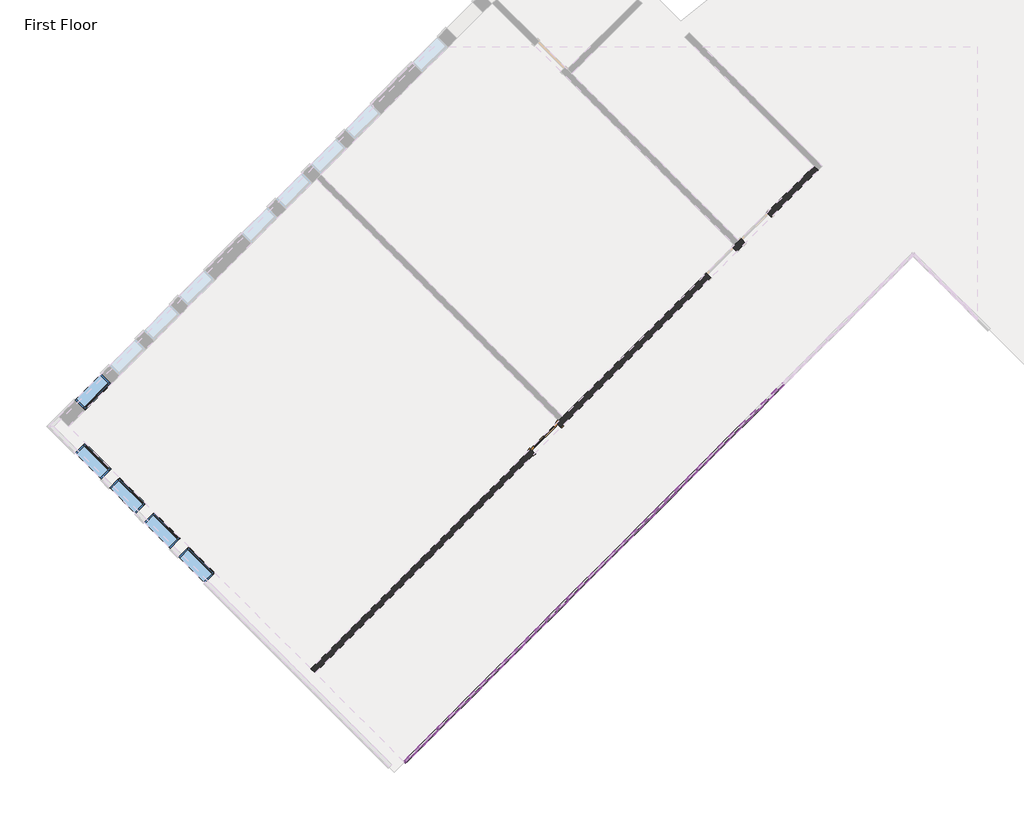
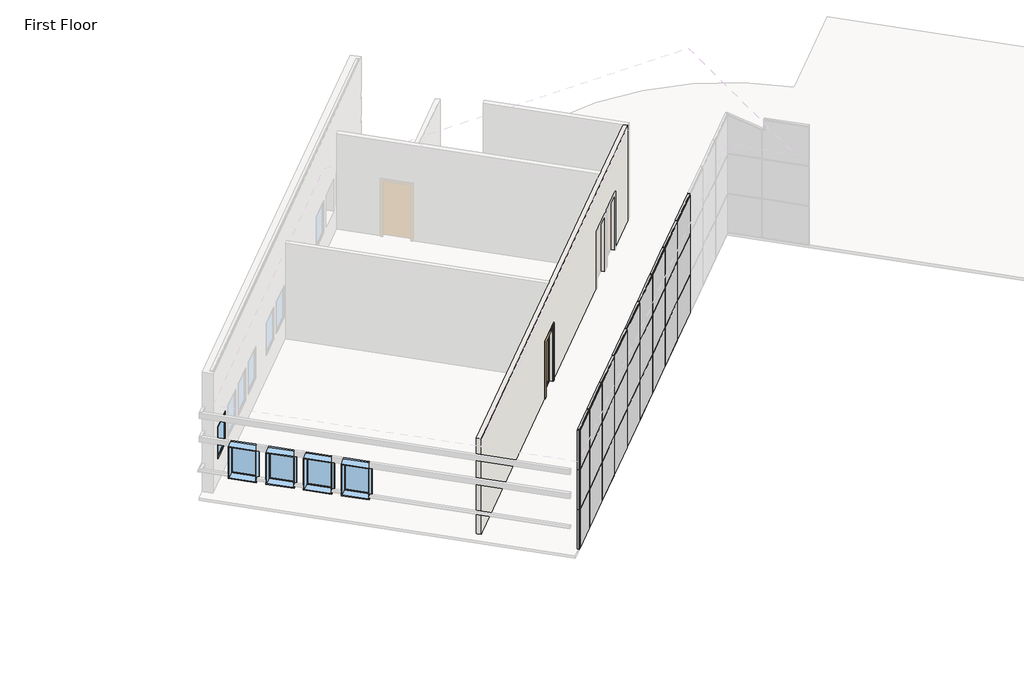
# One storey, part 1 of 5: 65 members, 27 plates, 5 windows, 1 door, 1 wall.
"""IFC4 building model written with IfcOpenShell, lengths in millimetres."""

from ifc_helpers import new_model, si_unit, origin, place, context, project, spatial, faceted_brep, transform, mapped, element, save
from components import door_b81abb0e, member_6121af53, member_155beb68, member_bd80eb51, member_42be4715, member_a3731390, member_b87a50da, system_panel_glazed_da345f4e, system_panel_glazed_f1e4c5b0, system_panel_glazed_b4114ee2, system_panel_glazed_dc791129, system_panel_solid_2f1037e2, system_panel_solid_6e0f4c8d, window_15c49d37, window_0e2fc6ce

model = new_model("IFC4")

# Units and contexts
model_context = context("Model", 3, world=origin())
ifc_project = project(units=[si_unit("LENGTHUNIT", "METRE", prefix="MILLI")], contexts=[model_context])

# Site, building, storey
site = spatial("IfcSite", under=ifc_project)
building = spatial("IfcBuilding", under=site)
storey = spatial("IfcBuildingStorey", under=building, Name="First Floor", Elevation=0.0)

# Door
placement = place(None, origin())
door_shape = door_b81abb0e(model_context)
element("IfcDoor", 1, ObjectType="Single-Glass 1 : 36\" x 84\"", at=placement, inside=storey, context=model_context, shape_type="MappedRepresentation", body=[
    mapped(door_shape, transform((-12027.7718255, -1647.4849877, 0.0), x_axis=(0.7071067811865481, 0.7071067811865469, 0.0), y_axis=(-0.7071067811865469, 0.7071067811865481, 0.0), z_axis=(0.0, 0.0, 1.0))),
])

# Members
member_shape = member_6121af53(model_context)
element("IfcMember", 2, ObjectType="Rectangular Mullion : 1.5\" x 2.5\" Rectangular", at=placement, inside=storey, context=model_context, shape_type="MappedRepresentation", body=[
    mapped(member_shape, transform((-10397.9731218, -4577.4113295, 4572.0), x_axis=(0.0, 0.0, 1.0), y_axis=(-0.7071067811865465, 0.7071067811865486, 0.0), z_axis=(-0.7071067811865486, -0.7071067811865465, 0.0))),
])
element("IfcMember", 3, ObjectType="Rectangular Mullion : 1.5\" x 2.5\" Rectangular", at=placement, inside=storey, context=model_context, shape_type="MappedRepresentation", body=[
    mapped(member_shape, transform((-11475.6038564, -5655.042064, 4572.0), x_axis=(0.0, 0.0, 1.0), y_axis=(-0.7071067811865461, 0.707106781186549, 0.0), z_axis=(-0.7071067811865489, -0.707106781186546, 0.0))),
])
element("IfcMember", 4, ObjectType="Rectangular Mullion : 1.5\" x 2.5\" Rectangular", at=placement, inside=storey, context=model_context, shape_type="MappedRepresentation", body=[
    mapped(member_shape, transform((-12553.2345909, -6732.6727986, 4572.0), x_axis=(0.0, 0.0, 1.0), y_axis=(-0.7071067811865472, 0.7071067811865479, 0.0), z_axis=(-0.7071067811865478, -0.7071067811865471, 0.0))),
])
element("IfcMember", 5, ObjectType="Rectangular Mullion : 1.5\" x 2.5\" Rectangular", at=placement, inside=storey, context=model_context, shape_type="MappedRepresentation", body=[
    mapped(member_shape, transform((-13630.8653254, -7810.3035331, 4572.0), x_axis=(0.0, 0.0, 1.0), y_axis=(-0.7071067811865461, 0.707106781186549, 0.0), z_axis=(-0.707106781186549, -0.7071067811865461, 0.0))),
])
element("IfcMember", 6, ObjectType="Rectangular Mullion : 1.5\" x 2.5\" Rectangular", at=placement, inside=storey, context=model_context, shape_type="MappedRepresentation", body=[
    mapped(member_shape, transform((-14708.4960599, -8887.9342676, 4572.0), x_axis=(0.0, 0.0, 1.0), y_axis=(-0.7071067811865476, 0.7071067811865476, 0.0), z_axis=(-0.7071067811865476, -0.7071067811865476, 0.0))),
])
element("IfcMember", 7, ObjectType="Rectangular Mullion : 1.5\" x 2.5\" Rectangular", at=placement, inside=storey, context=model_context, shape_type="MappedRepresentation", body=[
    mapped(member_shape, transform((-7165.0809182, -1344.5191259, 4572.0), x_axis=(0.0, 0.0, 1.0), y_axis=(-0.7071067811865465, 0.7071067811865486, 0.0), z_axis=(-0.7071067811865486, -0.7071067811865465, 0.0))),
])
element("IfcMember", 8, ObjectType="Rectangular Mullion : 1.5\" x 2.5\" Rectangular", at=placement, inside=storey, context=model_context, shape_type="MappedRepresentation", body=[
    mapped(member_shape, transform((-8242.7116528, -2422.1498604, 4572.0), x_axis=(0.0, 0.0, 1.0), y_axis=(-0.7071067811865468, 0.7071067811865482, 0.0), z_axis=(-0.7071067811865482, -0.7071067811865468, 0.0))),
])
element("IfcMember", 9, ObjectType="Rectangular Mullion : 1.5\" x 2.5\" Rectangular", at=placement, inside=storey, context=model_context, shape_type="MappedRepresentation", body=[
    mapped(member_shape, transform((-9320.3423873, -3499.780595, 4572.0), x_axis=(0.0, 0.0, 1.0), y_axis=(-0.7071067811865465, 0.7071067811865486, 0.0), z_axis=(-0.7071067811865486, -0.7071067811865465, 0.0))),
])
member_2_shape = member_155beb68(model_context)
element("IfcMember", 10, ObjectType="Rectangular Mullion : 1.5\" x 2.5\" Rectangular", at=placement, inside=storey, context=model_context, shape_type="MappedRepresentation", body=[
    mapped(member_2_shape, transform((-6100.9205679, -280.3587756, 1524.0), x_axis=(-0.7071067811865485, -0.7071067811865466, 0.0), y_axis=(-0.7071067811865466, 0.7071067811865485, 0.0), z_axis=(0.0, 0.0, -1.0))),
])
element("IfcMember", 11, ObjectType="Rectangular Mullion : 1.5\" x 2.5\" Rectangular", at=placement, inside=storey, context=model_context, shape_type="MappedRepresentation", body=[
    mapped(member_2_shape, transform((-7178.5513024, -1357.9895101, 1524.0), x_axis=(-0.7071067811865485, -0.7071067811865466, 0.0), y_axis=(-0.7071067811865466, 0.7071067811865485, 0.0), z_axis=(0.0, 0.0, -1.0))),
])
element("IfcMember", 12, ObjectType="Rectangular Mullion : 1.5\" x 2.5\" Rectangular", at=placement, inside=storey, context=model_context, shape_type="MappedRepresentation", body=[
    mapped(member_2_shape, transform((-8256.1820369, -2435.6202446, 1524.0), x_axis=(-0.7071067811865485, -0.7071067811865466, 0.0), y_axis=(-0.7071067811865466, 0.7071067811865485, 0.0), z_axis=(0.0, 0.0, -1.0))),
])
element("IfcMember", 13, ObjectType="Rectangular Mullion : 1.5\" x 2.5\" Rectangular", at=placement, inside=storey, context=model_context, shape_type="MappedRepresentation", body=[
    mapped(member_2_shape, transform((-9333.8127715, -3513.2509792, 1524.0), x_axis=(-0.7071067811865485, -0.7071067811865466, 0.0), y_axis=(-0.7071067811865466, 0.7071067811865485, 0.0), z_axis=(0.0, 0.0, -1.0))),
])
element("IfcMember", 14, ObjectType="Rectangular Mullion : 1.5\" x 2.5\" Rectangular", at=placement, inside=storey, context=model_context, shape_type="MappedRepresentation", body=[
    mapped(member_2_shape, transform((-10411.443506, -4590.8817137, 1524.0), x_axis=(-0.7071067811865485, -0.7071067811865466, 0.0), y_axis=(-0.7071067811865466, 0.7071067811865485, 0.0), z_axis=(0.0, 0.0, -1.0))),
])
element("IfcMember", 15, ObjectType="Rectangular Mullion : 1.5\" x 2.5\" Rectangular", at=placement, inside=storey, context=model_context, shape_type="MappedRepresentation", body=[
    mapped(member_2_shape, transform((-11489.0742405, -5668.5124482, 1524.0), x_axis=(-0.7071067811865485, -0.7071067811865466, 0.0), y_axis=(-0.7071067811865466, 0.7071067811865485, 0.0), z_axis=(0.0, 0.0, -1.0))),
])
element("IfcMember", 16, ObjectType="Rectangular Mullion : 1.5\" x 2.5\" Rectangular", at=placement, inside=storey, context=model_context, shape_type="MappedRepresentation", body=[
    mapped(member_2_shape, transform((-12566.7049751, -6746.1431827, 1524.0), x_axis=(-0.7071067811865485, -0.7071067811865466, 0.0), y_axis=(-0.7071067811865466, 0.7071067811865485, 0.0), z_axis=(0.0, 0.0, -1.0))),
])
element("IfcMember", 17, ObjectType="Rectangular Mullion : 1.5\" x 2.5\" Rectangular", at=placement, inside=storey, context=model_context, shape_type="MappedRepresentation", body=[
    mapped(member_2_shape, transform((-13644.3357096, -7823.7739173, 1524.0), x_axis=(-0.7071067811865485, -0.7071067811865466, 0.0), y_axis=(-0.7071067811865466, 0.7071067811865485, 0.0), z_axis=(0.0, 0.0, -1.0))),
])
element("IfcMember", 18, ObjectType="Rectangular Mullion : 1.5\" x 2.5\" Rectangular", at=placement, inside=storey, context=model_context, shape_type="MappedRepresentation", body=[
    mapped(member_2_shape, transform((-14721.9664441, -8901.4046518, 1524.0), x_axis=(-0.7071067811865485, -0.7071067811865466, 0.0), y_axis=(-0.7071067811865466, 0.7071067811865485, 0.0), z_axis=(0.0, 0.0, -1.0))),
])
element("IfcMember", 19, ObjectType="Rectangular Mullion : 1.5\" x 2.5\" Rectangular", at=placement, inside=storey, context=model_context, shape_type="MappedRepresentation", body=[
    mapped(member_2_shape, transform((-6100.9205679, -280.3587756, 3048.0), x_axis=(-0.7071067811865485, -0.7071067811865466, 0.0), y_axis=(-0.7071067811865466, 0.7071067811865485, 0.0), z_axis=(0.0, 0.0, -1.0))),
])
element("IfcMember", 20, ObjectType="Rectangular Mullion : 1.5\" x 2.5\" Rectangular", at=placement, inside=storey, context=model_context, shape_type="MappedRepresentation", body=[
    mapped(member_2_shape, transform((-7178.5513024, -1357.9895101, 3048.0), x_axis=(-0.7071067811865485, -0.7071067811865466, 0.0), y_axis=(-0.7071067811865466, 0.7071067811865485, 0.0), z_axis=(0.0, 0.0, -1.0))),
])
element("IfcMember", 21, ObjectType="Rectangular Mullion : 1.5\" x 2.5\" Rectangular", at=placement, inside=storey, context=model_context, shape_type="MappedRepresentation", body=[
    mapped(member_2_shape, transform((-8256.1820369, -2435.6202446, 3048.0), x_axis=(-0.7071067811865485, -0.7071067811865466, 0.0), y_axis=(-0.7071067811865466, 0.7071067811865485, 0.0), z_axis=(0.0, 0.0, -1.0))),
])
element("IfcMember", 22, ObjectType="Rectangular Mullion : 1.5\" x 2.5\" Rectangular", at=placement, inside=storey, context=model_context, shape_type="MappedRepresentation", body=[
    mapped(member_2_shape, transform((-9333.8127715, -3513.2509792, 3048.0), x_axis=(-0.7071067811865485, -0.7071067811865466, 0.0), y_axis=(-0.7071067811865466, 0.7071067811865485, 0.0), z_axis=(0.0, 0.0, -1.0))),
])
element("IfcMember", 23, ObjectType="Rectangular Mullion : 1.5\" x 2.5\" Rectangular", at=placement, inside=storey, context=model_context, shape_type="MappedRepresentation", body=[
    mapped(member_2_shape, transform((-10411.443506, -4590.8817137, 3048.0), x_axis=(-0.7071067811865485, -0.7071067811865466, 0.0), y_axis=(-0.7071067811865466, 0.7071067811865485, 0.0), z_axis=(0.0, 0.0, -1.0))),
])
element("IfcMember", 24, ObjectType="Rectangular Mullion : 1.5\" x 2.5\" Rectangular", at=placement, inside=storey, context=model_context, shape_type="MappedRepresentation", body=[
    mapped(member_2_shape, transform((-11489.0742405, -5668.5124482, 3048.0), x_axis=(-0.7071067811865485, -0.7071067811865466, 0.0), y_axis=(-0.7071067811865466, 0.7071067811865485, 0.0), z_axis=(0.0, 0.0, -1.0))),
])
element("IfcMember", 25, ObjectType="Rectangular Mullion : 1.5\" x 2.5\" Rectangular", at=placement, inside=storey, context=model_context, shape_type="MappedRepresentation", body=[
    mapped(member_2_shape, transform((-12566.7049751, -6746.1431827, 3048.0), x_axis=(-0.7071067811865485, -0.7071067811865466, 0.0), y_axis=(-0.7071067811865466, 0.7071067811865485, 0.0), z_axis=(0.0, 0.0, -1.0))),
])
element("IfcMember", 26, ObjectType="Rectangular Mullion : 1.5\" x 2.5\" Rectangular", at=placement, inside=storey, context=model_context, shape_type="MappedRepresentation", body=[
    mapped(member_2_shape, transform((-13644.3357096, -7823.7739173, 3048.0), x_axis=(-0.7071067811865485, -0.7071067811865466, 0.0), y_axis=(-0.7071067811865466, 0.7071067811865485, 0.0), z_axis=(0.0, 0.0, -1.0))),
])
element("IfcMember", 27, ObjectType="Rectangular Mullion : 1.5\" x 2.5\" Rectangular", at=placement, inside=storey, context=model_context, shape_type="MappedRepresentation", body=[
    mapped(member_2_shape, transform((-14721.9664441, -8901.4046518, 3048.0), x_axis=(-0.7071067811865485, -0.7071067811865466, 0.0), y_axis=(-0.7071067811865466, 0.7071067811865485, 0.0), z_axis=(0.0, 0.0, -1.0))),
])
member_3_shape = member_bd80eb51(model_context)
element("IfcMember", 28, ObjectType="Rectangular Mullion : 1.5\" x 2.5\" Rectangular", at=placement, inside=storey, context=model_context, shape_type="MappedRepresentation", body=[
    mapped(member_3_shape, transform((-15523.4543029, -9702.8925106, 4572.0), x_axis=(0.0, 0.0, 1.0), y_axis=(-0.7071067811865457, 0.7071067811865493, 0.0), z_axis=(-0.7071067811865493, -0.7071067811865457, 0.0))),
])
element("IfcMember", 29, ObjectType="Rectangular Mullion : 1.5\" x 2.5\" Rectangular", at=placement, inside=storey, context=model_context, shape_type="MappedRepresentation", body=[
    mapped(member_2_shape, transform((-13644.3357096, -7823.7739173, 0.0), x_axis=(-0.7071067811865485, -0.7071067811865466, 0.0), y_axis=(-0.7071067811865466, 0.7071067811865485, 0.0), z_axis=(0.0, 0.0, -1.0))),
])
element("IfcMember", 30, ObjectType="Rectangular Mullion : 1.5\" x 2.5\" Rectangular", at=placement, inside=storey, context=model_context, shape_type="MappedRepresentation", body=[
    mapped(member_2_shape, transform((-14721.9664441, -8901.4046518, 0.0), x_axis=(-0.7071067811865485, -0.7071067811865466, 0.0), y_axis=(-0.7071067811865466, 0.7071067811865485, 0.0), z_axis=(0.0, 0.0, -1.0))),
])
element("IfcMember", 31, ObjectType="Rectangular Mullion : 1.5\" x 2.5\" Rectangular", at=placement, inside=storey, context=model_context, shape_type="MappedRepresentation", body=[
    mapped(member_2_shape, transform((-7178.5513024, -1357.9895101, 0.0), x_axis=(-0.7071067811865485, -0.7071067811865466, 0.0), y_axis=(-0.7071067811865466, 0.7071067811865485, 0.0), z_axis=(0.0, 0.0, -1.0))),
])
element("IfcMember", 32, ObjectType="Rectangular Mullion : 1.5\" x 2.5\" Rectangular", at=placement, inside=storey, context=model_context, shape_type="MappedRepresentation", body=[
    mapped(member_2_shape, transform((-8256.1820369, -2435.6202446, 0.0), x_axis=(-0.7071067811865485, -0.7071067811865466, 0.0), y_axis=(-0.7071067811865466, 0.7071067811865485, 0.0), z_axis=(0.0, 0.0, -1.0))),
])
element("IfcMember", 33, ObjectType="Rectangular Mullion : 1.5\" x 2.5\" Rectangular", at=placement, inside=storey, context=model_context, shape_type="MappedRepresentation", body=[
    mapped(member_2_shape, transform((-9333.8127715, -3513.2509792, 0.0), x_axis=(-0.7071067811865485, -0.7071067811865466, 0.0), y_axis=(-0.7071067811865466, 0.7071067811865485, 0.0), z_axis=(0.0, 0.0, -1.0))),
])
element("IfcMember", 34, ObjectType="Rectangular Mullion : 1.5\" x 2.5\" Rectangular", at=placement, inside=storey, context=model_context, shape_type="MappedRepresentation", body=[
    mapped(member_2_shape, transform((-10411.443506, -4590.8817137, 0.0), x_axis=(-0.7071067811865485, -0.7071067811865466, 0.0), y_axis=(-0.7071067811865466, 0.7071067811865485, 0.0), z_axis=(0.0, 0.0, -1.0))),
])
element("IfcMember", 35, ObjectType="Rectangular Mullion : 1.5\" x 2.5\" Rectangular", at=placement, inside=storey, context=model_context, shape_type="MappedRepresentation", body=[
    mapped(member_2_shape, transform((-11489.0742405, -5668.5124482, 0.0), x_axis=(-0.7071067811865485, -0.7071067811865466, 0.0), y_axis=(-0.7071067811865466, 0.7071067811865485, 0.0), z_axis=(0.0, 0.0, -1.0))),
])
element("IfcMember", 36, ObjectType="Rectangular Mullion : 1.5\" x 2.5\" Rectangular", at=placement, inside=storey, context=model_context, shape_type="MappedRepresentation", body=[
    mapped(member_2_shape, transform((-12566.7049751, -6746.1431827, 0.0), x_axis=(-0.7071067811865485, -0.7071067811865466, 0.0), y_axis=(-0.7071067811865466, 0.7071067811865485, 0.0), z_axis=(0.0, 0.0, -1.0))),
])
member_4_shape = member_42be4715(model_context)
element("IfcMember", 37, ObjectType="Rectangular Mullion : 1.5\" x 2.5\" Rectangular", at=placement, inside=storey, context=model_context, shape_type="MappedRepresentation", body=[
    mapped(member_4_shape, transform((-6087.4501837, -266.8883914, 3048.0), x_axis=(0.0, 0.0, 1.0), y_axis=(-0.7071067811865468, 0.7071067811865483, 0.0), z_axis=(-0.7071067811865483, -0.7071067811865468, 0.0))),
])
element("IfcMember", 38, ObjectType="Rectangular Mullion : 1.5\" x 2.5\" Rectangular", at=placement, inside=storey, context=model_context, shape_type="MappedRepresentation", body=[
    mapped(member_4_shape, transform((-7165.0809182, -1344.5191259, 3048.0), x_axis=(0.0, 0.0, 1.0), y_axis=(-0.7071067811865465, 0.7071067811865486, 0.0), z_axis=(-0.7071067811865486, -0.7071067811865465, 0.0))),
])
element("IfcMember", 39, ObjectType="Rectangular Mullion : 1.5\" x 2.5\" Rectangular", at=placement, inside=storey, context=model_context, shape_type="MappedRepresentation", body=[
    mapped(member_4_shape, transform((-8242.7116528, -2422.1498604, 3048.0), x_axis=(0.0, 0.0, 1.0), y_axis=(-0.7071067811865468, 0.7071067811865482, 0.0), z_axis=(-0.7071067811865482, -0.7071067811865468, 0.0))),
])
element("IfcMember", 40, ObjectType="Rectangular Mullion : 1.5\" x 2.5\" Rectangular", at=placement, inside=storey, context=model_context, shape_type="MappedRepresentation", body=[
    mapped(member_4_shape, transform((-9320.3423873, -3499.780595, 3048.0), x_axis=(0.0, 0.0, 1.0), y_axis=(-0.7071067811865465, 0.7071067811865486, 0.0), z_axis=(-0.7071067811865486, -0.7071067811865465, 0.0))),
])
element("IfcMember", 41, ObjectType="Rectangular Mullion : 1.5\" x 2.5\" Rectangular", at=placement, inside=storey, context=model_context, shape_type="MappedRepresentation", body=[
    mapped(member_4_shape, transform((-10397.9731218, -4577.4113295, 3048.0), x_axis=(0.0, 0.0, 1.0), y_axis=(-0.7071067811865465, 0.7071067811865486, 0.0), z_axis=(-0.7071067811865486, -0.7071067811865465, 0.0))),
])
element("IfcMember", 42, ObjectType="Rectangular Mullion : 1.5\" x 2.5\" Rectangular", at=placement, inside=storey, context=model_context, shape_type="MappedRepresentation", body=[
    mapped(member_4_shape, transform((-11475.6038564, -5655.042064, 3048.0), x_axis=(0.0, 0.0, 1.0), y_axis=(-0.7071067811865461, 0.707106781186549, 0.0), z_axis=(-0.7071067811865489, -0.707106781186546, 0.0))),
])
element("IfcMember", 43, ObjectType="Rectangular Mullion : 1.5\" x 2.5\" Rectangular", at=placement, inside=storey, context=model_context, shape_type="MappedRepresentation", body=[
    mapped(member_4_shape, transform((-12553.2345909, -6732.6727986, 3048.0), x_axis=(0.0, 0.0, 1.0), y_axis=(-0.7071067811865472, 0.7071067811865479, 0.0), z_axis=(-0.7071067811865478, -0.7071067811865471, 0.0))),
])
element("IfcMember", 44, ObjectType="Rectangular Mullion : 1.5\" x 2.5\" Rectangular", at=placement, inside=storey, context=model_context, shape_type="MappedRepresentation", body=[
    mapped(member_4_shape, transform((-7165.0809182, -1344.5191259, 1524.0), x_axis=(0.0, 0.0, 1.0), y_axis=(-0.7071067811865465, 0.7071067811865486, 0.0), z_axis=(-0.7071067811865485, -0.7071067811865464, 0.0))),
])
element("IfcMember", 45, ObjectType="Rectangular Mullion : 1.5\" x 2.5\" Rectangular", at=placement, inside=storey, context=model_context, shape_type="MappedRepresentation", body=[
    mapped(member_4_shape, transform((-8242.7116528, -2422.1498604, 1524.0), x_axis=(0.0, 0.0, 1.0), y_axis=(-0.7071067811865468, 0.7071067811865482, 0.0), z_axis=(-0.7071067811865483, -0.7071067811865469, 0.0))),
])
element("IfcMember", 46, ObjectType="Rectangular Mullion : 1.5\" x 2.5\" Rectangular", at=placement, inside=storey, context=model_context, shape_type="MappedRepresentation", body=[
    mapped(member_4_shape, transform((-9320.3423873, -3499.780595, 1524.0), x_axis=(0.0, 0.0, 1.0), y_axis=(-0.7071067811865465, 0.7071067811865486, 0.0), z_axis=(-0.7071067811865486, -0.7071067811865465, 0.0))),
])
element("IfcMember", 47, ObjectType="Rectangular Mullion : 1.5\" x 2.5\" Rectangular", at=placement, inside=storey, context=model_context, shape_type="MappedRepresentation", body=[
    mapped(member_4_shape, transform((-10397.9731218, -4577.4113295, 1524.0), x_axis=(0.0, 0.0, 1.0), y_axis=(-0.7071067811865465, 0.7071067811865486, 0.0), z_axis=(-0.7071067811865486, -0.7071067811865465, 0.0))),
])
element("IfcMember", 48, ObjectType="Rectangular Mullion : 1.5\" x 2.5\" Rectangular", at=placement, inside=storey, context=model_context, shape_type="MappedRepresentation", body=[
    mapped(member_4_shape, transform((-11475.6038564, -5655.042064, 1524.0), x_axis=(0.0, 0.0, 1.0), y_axis=(-0.7071067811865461, 0.707106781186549, 0.0), z_axis=(-0.7071067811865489, -0.707106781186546, 0.0))),
])
element("IfcMember", 49, ObjectType="Rectangular Mullion : 1.5\" x 2.5\" Rectangular", at=placement, inside=storey, context=model_context, shape_type="MappedRepresentation", body=[
    mapped(member_4_shape, transform((-12553.2345909, -6732.6727986, 1524.0), x_axis=(0.0, 0.0, 1.0), y_axis=(-0.7071067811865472, 0.7071067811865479, 0.0), z_axis=(-0.7071067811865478, -0.7071067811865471, 0.0))),
])
element("IfcMember", 50, ObjectType="Rectangular Mullion : 1.5\" x 2.5\" Rectangular", at=placement, inside=storey, context=model_context, shape_type="MappedRepresentation", body=[
    mapped(member_4_shape, transform((-13630.8653254, -7810.3035331, 1524.0), x_axis=(0.0, 0.0, 1.0), y_axis=(-0.7071067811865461, 0.707106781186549, 0.0), z_axis=(-0.707106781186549, -0.7071067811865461, 0.0))),
])
element("IfcMember", 51, ObjectType="Rectangular Mullion : 1.5\" x 2.5\" Rectangular", at=placement, inside=storey, context=model_context, shape_type="MappedRepresentation", body=[
    mapped(member_4_shape, transform((-14708.4960599, -8887.9342676, 1524.0), x_axis=(0.0, 0.0, 1.0), y_axis=(-0.7071067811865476, 0.7071067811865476, 0.0), z_axis=(-0.7071067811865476, -0.7071067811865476, 0.0))),
])
element("IfcMember", 52, ObjectType="Rectangular Mullion : 1.5\" x 2.5\" Rectangular", at=placement, inside=storey, context=model_context, shape_type="MappedRepresentation", body=[
    mapped(member_4_shape, transform((-13630.8653254, -7810.3035331, 3048.0), x_axis=(0.0, 0.0, 1.0), y_axis=(-0.7071067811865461, 0.707106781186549, 0.0), z_axis=(-0.707106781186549, -0.7071067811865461, 0.0))),
])
element("IfcMember", 53, ObjectType="Rectangular Mullion : 1.5\" x 2.5\" Rectangular", at=placement, inside=storey, context=model_context, shape_type="MappedRepresentation", body=[
    mapped(member_4_shape, transform((-14708.4960599, -8887.9342676, 3048.0), x_axis=(0.0, 0.0, 1.0), y_axis=(-0.7071067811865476, 0.7071067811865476, 0.0), z_axis=(-0.7071067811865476, -0.7071067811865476, 0.0))),
])
element("IfcMember", 54, ObjectType="Rectangular Mullion : 1.5\" x 2.5\" Rectangular", at=placement, inside=storey, context=model_context, shape_type="MappedRepresentation", body=[
    mapped(member_shape, transform((-12580.1753592, -6759.6135669, 0.0), x_axis=(0.0, 0.0, -1.0), y_axis=(-0.7071067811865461, 0.707106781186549, 0.0), z_axis=(0.707106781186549, 0.7071067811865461, 0.0))),
])
element("IfcMember", 55, ObjectType="Rectangular Mullion : 1.5\" x 2.5\" Rectangular", at=placement, inside=storey, context=model_context, shape_type="MappedRepresentation", body=[
    mapped(member_shape, transform((-13657.8060938, -7837.2443014, 0.0), x_axis=(0.0, 0.0, -1.0), y_axis=(-0.7071067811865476, 0.7071067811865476, 0.0), z_axis=(0.7071067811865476, 0.7071067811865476, 0.0))),
])
element("IfcMember", 56, ObjectType="Rectangular Mullion : 1.5\" x 2.5\" Rectangular", at=placement, inside=storey, context=model_context, shape_type="MappedRepresentation", body=[
    mapped(member_shape, transform((-7192.0216866, -1371.4598943, 0.0), x_axis=(0.0, 0.0, -1.0), y_axis=(-0.7071067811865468, 0.7071067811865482, 0.0), z_axis=(0.7071067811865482, 0.7071067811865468, 0.0))),
])
element("IfcMember", 57, ObjectType="Rectangular Mullion : 1.5\" x 2.5\" Rectangular", at=placement, inside=storey, context=model_context, shape_type="MappedRepresentation", body=[
    mapped(member_shape, transform((-8269.6524211, -2449.0906288, 0.0), x_axis=(0.0, 0.0, -1.0), y_axis=(-0.7071067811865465, 0.7071067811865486, 0.0), z_axis=(0.7071067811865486, 0.7071067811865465, 0.0))),
])
element("IfcMember", 58, ObjectType="Rectangular Mullion : 1.5\" x 2.5\" Rectangular", at=placement, inside=storey, context=model_context, shape_type="MappedRepresentation", body=[
    mapped(member_shape, transform((-9347.2831557, -3526.7213633, 0.0), x_axis=(0.0, 0.0, -1.0), y_axis=(-0.7071067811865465, 0.7071067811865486, 0.0), z_axis=(0.7071067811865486, 0.7071067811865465, 0.0))),
])
element("IfcMember", 59, ObjectType="Rectangular Mullion : 1.5\" x 2.5\" Rectangular", at=placement, inside=storey, context=model_context, shape_type="MappedRepresentation", body=[
    mapped(member_shape, transform((-10424.9138902, -4604.3520979, 0.0), x_axis=(0.0, 0.0, -1.0), y_axis=(-0.7071067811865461, 0.707106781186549, 0.0), z_axis=(0.7071067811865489, 0.707106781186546, 0.0))),
])
element("IfcMember", 60, ObjectType="Rectangular Mullion : 1.5\" x 2.5\" Rectangular", at=placement, inside=storey, context=model_context, shape_type="MappedRepresentation", body=[
    mapped(member_shape, transform((-11502.5446247, -5681.9828324, 0.0), x_axis=(0.0, 0.0, -1.0), y_axis=(-0.7071067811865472, 0.7071067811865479, 0.0), z_axis=(0.7071067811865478, 0.7071067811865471, 0.0))),
])
element("IfcMember", 61, ObjectType="Rectangular Mullion : 1.5\" x 2.5\" Rectangular", at=placement, inside=storey, context=model_context, shape_type="MappedRepresentation", body=[
    mapped(member_3_shape, transform((-14735.4368283, -8914.875036, 0.0), x_axis=(0.0, 0.0, -1.0), y_axis=(-0.7071067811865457, 0.7071067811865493, 0.0), z_axis=(0.7071067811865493, 0.7071067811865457, 0.0))),
])
member_5_shape = member_a3731390(model_context)
element("IfcMember", 62, ObjectType="Rectangular Mullion : 1.5\" x 2.5\" Rectangular", at=placement, inside=storey, context=model_context, shape_type="MappedRepresentation", body=[
    mapped(member_5_shape, transform((-15523.4543029, -9702.8925106, 1524.0), x_axis=(0.0, 0.0, 1.0), y_axis=(-0.7071067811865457, 0.7071067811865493, 0.0), z_axis=(-0.7071067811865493, -0.7071067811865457, 0.0))),
])
element("IfcMember", 63, ObjectType="Rectangular Mullion : 1.5\" x 2.5\" Rectangular", at=placement, inside=storey, context=model_context, shape_type="MappedRepresentation", body=[
    mapped(member_5_shape, transform((-15523.4543029, -9702.8925106, 3048.0), x_axis=(0.0, 0.0, 1.0), y_axis=(-0.7071067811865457, 0.7071067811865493, 0.0), z_axis=(-0.7071067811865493, -0.7071067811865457, 0.0))),
])
member_6_shape = member_b87a50da(model_context)
element("IfcMember", 64, ObjectType="Rectangular Mullion : 1.5\" x 2.5\" Rectangular", at=placement, inside=storey, context=model_context, shape_type="MappedRepresentation", body=[
    mapped(member_6_shape, transform((-15550.3950713, -9729.833279, 0.0), x_axis=(-0.7071067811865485, -0.7071067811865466, 0.0), y_axis=(-0.7071067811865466, 0.7071067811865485, 0.0), z_axis=(0.0, 0.0, -1.0))),
])
element("IfcMember", 65, ObjectType="Rectangular Mullion : 1.5\" x 2.5\" Rectangular", at=placement, inside=storey, context=model_context, shape_type="MappedRepresentation", body=[
    mapped(member_6_shape, transform((-15550.3950713, -9729.833279, 1524.0), x_axis=(-0.7071067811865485, -0.7071067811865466, 0.0), y_axis=(-0.7071067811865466, 0.7071067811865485, 0.0), z_axis=(0.0, 0.0, -1.0))),
])
element("IfcMember", 66, ObjectType="Rectangular Mullion : 1.5\" x 2.5\" Rectangular", at=placement, inside=storey, context=model_context, shape_type="MappedRepresentation", body=[
    mapped(member_6_shape, transform((-15550.3950713, -9729.833279, 3048.0), x_axis=(-0.7071067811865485, -0.7071067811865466, 0.0), y_axis=(-0.7071067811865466, 0.7071067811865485, 0.0), z_axis=(0.0, 0.0, -1.0))),
])

# Plates
system_panel_glazed_shape = system_panel_glazed_da345f4e(model_context)
element("IfcPlate", 67, ObjectType="System Panel : Glazed", at=placement, inside=storey, context=model_context, shape_type="MappedRepresentation", body=[
    mapped(system_panel_glazed_shape, transform((-6639.7359352, -819.1741428, 38.1), x_axis=(-0.7071067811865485, -0.7071067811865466, 0.0), y_axis=(0.7071067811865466, -0.7071067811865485, 0.0), z_axis=(0.0, 0.0, 1.0))),
])
element("IfcPlate", 68, ObjectType="System Panel : Glazed", at=placement, inside=storey, context=model_context, shape_type="MappedRepresentation", body=[
    mapped(system_panel_glazed_shape, transform((-7717.3666697, -1896.8048774, 38.1), x_axis=(-0.7071067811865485, -0.7071067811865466, 0.0), y_axis=(0.7071067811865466, -0.7071067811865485, 0.0), z_axis=(0.0, 0.0, 1.0))),
])
element("IfcPlate", 69, ObjectType="System Panel : Glazed", at=placement, inside=storey, context=model_context, shape_type="MappedRepresentation", body=[
    mapped(system_panel_glazed_shape, transform((-8794.9974042, -2974.4356119, 38.1), x_axis=(-0.7071067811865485, -0.7071067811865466, 0.0), y_axis=(0.7071067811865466, -0.7071067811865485, 0.0), z_axis=(0.0, 0.0, 1.0))),
])
element("IfcPlate", 70, ObjectType="System Panel : Glazed", at=placement, inside=storey, context=model_context, shape_type="MappedRepresentation", body=[
    mapped(system_panel_glazed_shape, transform((-9872.6281387, -4052.0663464, 38.1), x_axis=(-0.7071067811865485, -0.7071067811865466, 0.0), y_axis=(0.7071067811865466, -0.7071067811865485, 0.0), z_axis=(0.0, 0.0, 1.0))),
])
element("IfcPlate", 71, ObjectType="System Panel : Glazed", at=placement, inside=storey, context=model_context, shape_type="MappedRepresentation", body=[
    mapped(system_panel_glazed_shape, transform((-10950.2588733, -5129.6970809, 38.1), x_axis=(-0.7071067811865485, -0.7071067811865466, 0.0), y_axis=(0.7071067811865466, -0.7071067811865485, 0.0), z_axis=(0.0, 0.0, 1.0))),
])
element("IfcPlate", 72, ObjectType="System Panel : Glazed", at=placement, inside=storey, context=model_context, shape_type="MappedRepresentation", body=[
    mapped(system_panel_glazed_shape, transform((-12027.8896078, -6207.3278155, 38.1), x_axis=(-0.7071067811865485, -0.7071067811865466, 0.0), y_axis=(0.7071067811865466, -0.7071067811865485, 0.0), z_axis=(0.0, 0.0, 1.0))),
])
element("IfcPlate", 73, ObjectType="System Panel : Glazed", at=placement, inside=storey, context=model_context, shape_type="MappedRepresentation", body=[
    mapped(system_panel_glazed_shape, transform((-13105.5203423, -7284.95855, 38.1), x_axis=(-0.7071067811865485, -0.7071067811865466, 0.0), y_axis=(0.7071067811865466, -0.7071067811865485, 0.0), z_axis=(0.0, 0.0, 1.0))),
])
element("IfcPlate", 74, ObjectType="System Panel : Glazed", at=placement, inside=storey, context=model_context, shape_type="MappedRepresentation", body=[
    mapped(system_panel_glazed_shape, transform((-14183.1510769, -8362.5892845, 38.1), x_axis=(-0.7071067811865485, -0.7071067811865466, 0.0), y_axis=(0.7071067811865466, -0.7071067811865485, 0.0), z_axis=(0.0, 0.0, 1.0))),
])
system_panel_glazed_2_shape = system_panel_glazed_f1e4c5b0(model_context)
element("IfcPlate", 75, ObjectType="System Panel : Glazed", at=placement, inside=storey, context=model_context, shape_type="MappedRepresentation", body=[
    mapped(system_panel_glazed_2_shape, transform((-6639.7359352, -819.1741428, 1543.05), x_axis=(-0.7071067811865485, -0.7071067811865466, 0.0), y_axis=(0.7071067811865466, -0.7071067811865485, 0.0), z_axis=(0.0, 0.0, 1.0))),
])
element("IfcPlate", 76, ObjectType="System Panel : Glazed", at=placement, inside=storey, context=model_context, shape_type="MappedRepresentation", body=[
    mapped(system_panel_glazed_2_shape, transform((-7717.3666697, -1896.8048774, 1543.05), x_axis=(-0.7071067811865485, -0.7071067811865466, 0.0), y_axis=(0.7071067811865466, -0.7071067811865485, 0.0), z_axis=(0.0, 0.0, 1.0))),
])
element("IfcPlate", 77, ObjectType="System Panel : Glazed", at=placement, inside=storey, context=model_context, shape_type="MappedRepresentation", body=[
    mapped(system_panel_glazed_2_shape, transform((-8794.9974042, -2974.4356119, 1543.05), x_axis=(-0.7071067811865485, -0.7071067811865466, 0.0), y_axis=(0.7071067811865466, -0.7071067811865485, 0.0), z_axis=(0.0, 0.0, 1.0))),
])
element("IfcPlate", 78, ObjectType="System Panel : Glazed", at=placement, inside=storey, context=model_context, shape_type="MappedRepresentation", body=[
    mapped(system_panel_glazed_2_shape, transform((-9872.6281387, -4052.0663464, 1543.05), x_axis=(-0.7071067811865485, -0.7071067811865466, 0.0), y_axis=(0.7071067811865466, -0.7071067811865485, 0.0), z_axis=(0.0, 0.0, 1.0))),
])
element("IfcPlate", 79, ObjectType="System Panel : Glazed", at=placement, inside=storey, context=model_context, shape_type="MappedRepresentation", body=[
    mapped(system_panel_glazed_2_shape, transform((-10950.2588733, -5129.6970809, 1543.05), x_axis=(-0.7071067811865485, -0.7071067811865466, 0.0), y_axis=(0.7071067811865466, -0.7071067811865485, 0.0), z_axis=(0.0, 0.0, 1.0))),
])
element("IfcPlate", 80, ObjectType="System Panel : Glazed", at=placement, inside=storey, context=model_context, shape_type="MappedRepresentation", body=[
    mapped(system_panel_glazed_2_shape, transform((-12027.8896078, -6207.3278155, 1543.05), x_axis=(-0.7071067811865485, -0.7071067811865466, 0.0), y_axis=(0.7071067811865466, -0.7071067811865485, 0.0), z_axis=(0.0, 0.0, 1.0))),
])
element("IfcPlate", 81, ObjectType="System Panel : Glazed", at=placement, inside=storey, context=model_context, shape_type="MappedRepresentation", body=[
    mapped(system_panel_glazed_2_shape, transform((-13105.5203423, -7284.95855, 1543.05), x_axis=(-0.7071067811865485, -0.7071067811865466, 0.0), y_axis=(0.7071067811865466, -0.7071067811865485, 0.0), z_axis=(0.0, 0.0, 1.0))),
])
element("IfcPlate", 82, ObjectType="System Panel : Glazed", at=placement, inside=storey, context=model_context, shape_type="MappedRepresentation", body=[
    mapped(system_panel_glazed_2_shape, transform((-14183.1510769, -8362.5892845, 1543.05), x_axis=(-0.7071067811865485, -0.7071067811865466, 0.0), y_axis=(0.7071067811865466, -0.7071067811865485, 0.0), z_axis=(0.0, 0.0, 1.0))),
])
system_panel_glazed_3_shape = system_panel_glazed_b4114ee2(model_context)
element("IfcPlate", 83, ObjectType="System Panel : Glazed", at=placement, inside=storey, context=model_context, shape_type="MappedRepresentation", body=[
    mapped(system_panel_glazed_3_shape, transform((-15129.4455656, -9308.8837733, 38.1), x_axis=(-0.7071067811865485, -0.7071067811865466, 0.0), y_axis=(0.7071067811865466, -0.7071067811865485, 0.0), z_axis=(0.0, 0.0, 1.0))),
])
system_panel_glazed_4_shape = system_panel_glazed_dc791129(model_context)
element("IfcPlate", 84, ObjectType="System Panel : Glazed", at=placement, inside=storey, context=model_context, shape_type="MappedRepresentation", body=[
    mapped(system_panel_glazed_4_shape, transform((-15129.4455656, -9308.8837733, 1543.05), x_axis=(-0.7071067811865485, -0.7071067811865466, 0.0), y_axis=(0.7071067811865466, -0.7071067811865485, 0.0), z_axis=(0.0, 0.0, 1.0))),
])
system_panel_solid_shape = system_panel_solid_2f1037e2(model_context)
element("IfcPlate", 85, ObjectType="System Panel : Solid", at=placement, inside=storey, context=model_context, shape_type="MappedRepresentation", body=[
    mapped(system_panel_solid_shape, transform((-6639.7359352, -819.1741428, 3067.05), x_axis=(-0.7071067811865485, -0.7071067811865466, 0.0), y_axis=(0.7071067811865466, -0.7071067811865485, 0.0), z_axis=(0.0, 0.0, 1.0))),
])
element("IfcPlate", 86, ObjectType="System Panel : Solid", at=placement, inside=storey, context=model_context, shape_type="MappedRepresentation", body=[
    mapped(system_panel_solid_shape, transform((-7717.3666697, -1896.8048774, 3067.05), x_axis=(-0.7071067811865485, -0.7071067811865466, 0.0), y_axis=(0.7071067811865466, -0.7071067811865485, 0.0), z_axis=(0.0, 0.0, 1.0))),
])
element("IfcPlate", 87, ObjectType="System Panel : Solid", at=placement, inside=storey, context=model_context, shape_type="MappedRepresentation", body=[
    mapped(system_panel_solid_shape, transform((-8794.9974042, -2974.4356119, 3067.05), x_axis=(-0.7071067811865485, -0.7071067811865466, 0.0), y_axis=(0.7071067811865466, -0.7071067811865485, 0.0), z_axis=(0.0, 0.0, 1.0))),
])
element("IfcPlate", 88, ObjectType="System Panel : Solid", at=placement, inside=storey, context=model_context, shape_type="MappedRepresentation", body=[
    mapped(system_panel_solid_shape, transform((-9872.6281387, -4052.0663464, 3067.05), x_axis=(-0.7071067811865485, -0.7071067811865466, 0.0), y_axis=(0.7071067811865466, -0.7071067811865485, 0.0), z_axis=(0.0, 0.0, 1.0))),
])
element("IfcPlate", 89, ObjectType="System Panel : Solid", at=placement, inside=storey, context=model_context, shape_type="MappedRepresentation", body=[
    mapped(system_panel_solid_shape, transform((-10950.2588733, -5129.6970809, 3067.05), x_axis=(-0.7071067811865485, -0.7071067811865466, 0.0), y_axis=(0.7071067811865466, -0.7071067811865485, 0.0), z_axis=(0.0, 0.0, 1.0))),
])
element("IfcPlate", 90, ObjectType="System Panel : Solid", at=placement, inside=storey, context=model_context, shape_type="MappedRepresentation", body=[
    mapped(system_panel_solid_shape, transform((-12027.8896078, -6207.3278155, 3067.05), x_axis=(-0.7071067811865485, -0.7071067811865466, 0.0), y_axis=(0.7071067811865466, -0.7071067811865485, 0.0), z_axis=(0.0, 0.0, 1.0))),
])
element("IfcPlate", 91, ObjectType="System Panel : Solid", at=placement, inside=storey, context=model_context, shape_type="MappedRepresentation", body=[
    mapped(system_panel_solid_shape, transform((-13105.5203423, -7284.95855, 3067.05), x_axis=(-0.7071067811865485, -0.7071067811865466, 0.0), y_axis=(0.7071067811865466, -0.7071067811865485, 0.0), z_axis=(0.0, 0.0, 1.0))),
])
element("IfcPlate", 92, ObjectType="System Panel : Solid", at=placement, inside=storey, context=model_context, shape_type="MappedRepresentation", body=[
    mapped(system_panel_solid_shape, transform((-14183.1510769, -8362.5892845, 3067.05), x_axis=(-0.7071067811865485, -0.7071067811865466, 0.0), y_axis=(0.7071067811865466, -0.7071067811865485, 0.0), z_axis=(0.0, 0.0, 1.0))),
])
system_panel_solid_2_shape = system_panel_solid_6e0f4c8d(model_context)
element("IfcPlate", 93, ObjectType="System Panel : Solid", at=placement, inside=storey, context=model_context, shape_type="MappedRepresentation", body=[
    mapped(system_panel_solid_2_shape, transform((-15129.4455656, -9308.8837733, 3067.05), x_axis=(-0.7071067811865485, -0.7071067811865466, 0.0), y_axis=(0.7071067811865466, -0.7071067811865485, 0.0), z_axis=(0.0, 0.0, 1.0))),
])

# Wall
element("IfcWall", 94, ObjectType="Interior - 6 1/8\" Partition (2-hr)", at=placement, inside=storey, context=model_context, shape_type="Brep", body=[
    faceted_brep([(-7264.9862676, 3005.2924327, 0.0), (-7049.4601207, 3220.8185796, 0.0), (-7049.4601207, 3220.8185796, 2133.6), (-6402.88168, 3867.3970204, 2133.6), (-6402.88168, 3867.3970204, 0.0), (-5238.5804157, 5031.6982846, 0.0), (-5238.5804157, 5031.6982846, 3657.6), (-17775.2535253, -7504.974825, 3657.6), (-17775.2535253, -7504.974825, 0.0), (-12296.0569771, -2025.7782768, 0.0), (-12296.0569771, -2025.7782768, 2133.6), (-11649.4785364, -1379.1998361, 2133.6), (-11649.4785364, -1379.1998361, 0.0), (-7911.5647083, 2358.713992, 0.0), (-7911.5647083, 2358.713992, 2133.6), (-7264.9862676, 3005.2924327, 2133.6), (-7159.4682582, 3330.8267171, 2133.6), (-7159.4682582, 3330.8267171, 0.0), (-7212.2272629, 3278.0677124, 0.0), (-7322.2354004, 3168.0595749, 0.0), (-7374.9944051, 3115.3005702, 0.0), (-7374.9944051, 3115.3005702, 2133.6), (-8021.5728458, 2468.7221295, 2133.6), (-8021.5728458, 2468.7221295, 0.0), (-11596.7195317, -1106.4245564, 0.0), (-11706.7276692, -1216.4326939, 0.0), (-11759.4866739, -1269.1916986, 0.0), (-11759.4866739, -1269.1916986, 2133.6), (-12406.0651146, -1915.7701393, 2133.6), (-12406.0651146, -1915.7701393, 0.0), (-17885.2616628, -7394.9666875, 0.0), (-17885.2616628, -7394.9666875, 3657.6), (-11706.7276692, -1216.4326939, 3657.6), (-11596.7195317, -1106.4245564, 3657.6), (-7322.2354004, 3168.0595749, 3657.6), (-7212.2272629, 3278.0677124, 3657.6), (-5348.5885532, 5141.7064221, 3657.6), (-5348.5885532, 5141.7064221, 0.0), (-6512.8898174, 3977.4051578, 0.0), (-6512.8898174, 3977.4051578, 2133.6)], [[[0, 1, 2, 3, 4, 5, 6, 7, 8, 9, 10, 11, 12, 13, 14, 15]], [[16, 17, 18, 19, 20, 21, 22, 23, 24, 25, 26, 27, 28, 29, 30, 31, 32, 33, 34, 35, 36, 37, 38, 39]], [[20, 19, 18, 17, 1, 0]], [[9, 8, 30, 29]], [[13, 12, 26, 25, 24, 23]], [[38, 37, 5, 4]], [[7, 6, 36, 35, 34, 33, 32, 31]], [[8, 7, 31, 30]], [[6, 5, 37, 36]], [[27, 26, 12, 11]], [[28, 27, 11, 10]], [[29, 28, 10, 9]], [[21, 20, 0, 15]], [[22, 21, 15, 14]], [[23, 22, 14, 13]], [[2, 1, 17, 16]], [[3, 2, 16, 39]], [[4, 3, 39, 38]]]),
])

# Windows
window_shape = window_15c49d37(model_context)
element("IfcWindow", 95, ObjectType="Fixed : 36\" x 48\"", at=placement, inside=storey, context=model_context, shape_type="MappedRepresentation", body=[
    mapped(window_shape, transform((-23336.2771283, -522.8256908, 0.0), x_axis=(-0.7071067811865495, -0.7071067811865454, 0.0), y_axis=(0.7071067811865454, -0.7071067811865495, 0.0), z_axis=(0.0, 0.0, 1.0))),
])
window_2_shape = window_0e2fc6ce(model_context)
element("IfcWindow", 96, ObjectType="Fixed : 36\" x 48\"", at=placement, inside=storey, context=model_context, shape_type="MappedRepresentation", body=[
    mapped(window_2_shape, transform((-23336.2771283, -2193.1533294, 0.0), x_axis=(-0.7071067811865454, 0.7071067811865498, 0.0), y_axis=(-0.7071067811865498, -0.7071067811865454, 0.0), z_axis=(0.0, 0.0, 1.0))),
])
element("IfcWindow", 97, ObjectType="Fixed : 36\" x 48\"", at=placement, inside=storey, context=model_context, shape_type="MappedRepresentation", body=[
    mapped(window_2_shape, transform((-22474.1725406, -3055.257917, 0.0), x_axis=(-0.7071067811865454, 0.7071067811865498, 0.0), y_axis=(-0.7071067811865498, -0.7071067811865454, 0.0), z_axis=(0.0, 0.0, 1.0))),
])
element("IfcWindow", 98, ObjectType="Fixed : 36\" x 48\"", at=placement, inside=storey, context=model_context, shape_type="MappedRepresentation", body=[
    mapped(window_2_shape, transform((-21612.067953, -3917.3625046, 0.0), x_axis=(-0.7071067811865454, 0.7071067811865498, 0.0), y_axis=(-0.7071067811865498, -0.7071067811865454, 0.0), z_axis=(0.0, 0.0, 1.0))),
])
element("IfcWindow", 99, ObjectType="Fixed : 36\" x 48\"", at=placement, inside=storey, context=model_context, shape_type="MappedRepresentation", body=[
    mapped(window_2_shape, transform((-20749.9633654, -4779.4670922, 0.0), x_axis=(-0.7071067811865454, 0.7071067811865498, 0.0), y_axis=(-0.7071067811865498, -0.7071067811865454, 0.0), z_axis=(0.0, 0.0, 1.0))),
])

save(model, "model.ifc")
